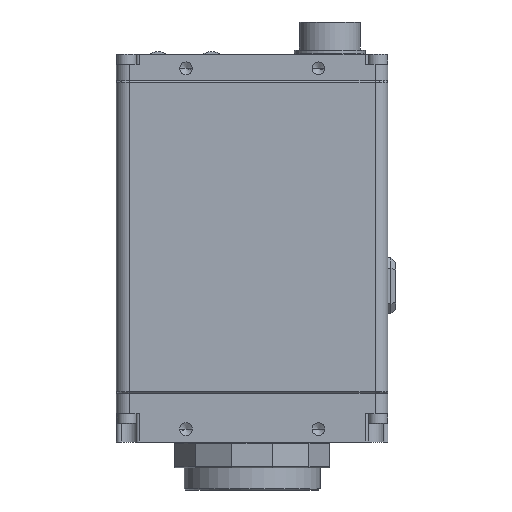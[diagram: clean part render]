
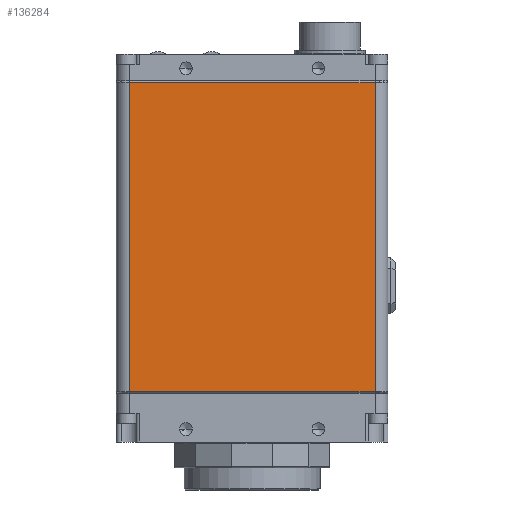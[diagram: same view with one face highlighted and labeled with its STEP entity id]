
A CAD part, front view. The second image highlights one B-rep face of the part: STEP entity #136284.
In plain terms, the highlighted planar face has unit normal (0, -1, 0) as drawn and (0, 1, 0) by its records, which use the part's own axes.
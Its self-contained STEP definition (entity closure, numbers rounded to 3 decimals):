
#3799 = DIRECTION ( 'NONE',  ( 1., 0., 0. ) ) ;
#4184 = DIRECTION ( 'NONE',  ( 0., -1., 0. ) ) ;
#4455 = CARTESIAN_POINT ( 'NONE',  ( -26.67, 16.51, 61.214 ) ) ;
#7368 = PLANE ( 'NONE',  #33106 ) ;
#8238 = CARTESIAN_POINT ( 'NONE',  ( 24.13, 16.51, 0.254 ) ) ;
#10062 = ORIENTED_EDGE ( 'NONE', *, *, #137458, .F. ) ;
#14776 = LINE ( 'NONE', #183584, #134828 ) ;
#27856 = CARTESIAN_POINT ( 'NONE',  ( -24.13, 16.51, 60.96 ) ) ;
#33106 = AXIS2_PLACEMENT_3D ( 'NONE', #4455, #4184, #3799 ) ;
#35497 = LINE ( 'NONE', #81174, #145630 ) ;
#61689 = DIRECTION ( 'NONE',  ( -1., 0., 0. ) ) ;
#61935 = CARTESIAN_POINT ( 'NONE',  ( -26.67, 16.51, 60.96 ) ) ;
#71208 = ORIENTED_EDGE ( 'NONE', *, *, #176427, .F. ) ;
#73296 = VERTEX_POINT ( 'NONE', #8238 ) ;
#73534 = EDGE_CURVE ( 'NONE', #73296, #93504, #14776, .T. ) ;
#81174 = CARTESIAN_POINT ( 'NONE',  ( -24.13, 16.51, 61.214 ) ) ;
#83998 = DIRECTION ( 'NONE',  ( 0., 0., -1. ) ) ;
#93504 = VERTEX_POINT ( 'NONE', #96551 ) ;
#96161 = LINE ( 'NONE', #106524, #169823 ) ;
#96551 = CARTESIAN_POINT ( 'NONE',  ( 24.13, 16.51, 60.96 ) ) ;
#98508 = EDGE_LOOP ( 'NONE', ( #71208, #189642, #10062, #102774 ) ) ;
#98649 = VERTEX_POINT ( 'NONE', #27856 ) ;
#102572 = DIRECTION ( 'NONE',  ( 1., 0., 0. ) ) ;
#102774 = ORIENTED_EDGE ( 'NONE', *, *, #73534, .F. ) ;
#106524 = CARTESIAN_POINT ( 'NONE',  ( -26.67, 16.51, 0.254 ) ) ;
#116225 = FACE_OUTER_BOUND ( 'NONE', #98508, .T. ) ;
#124518 = CARTESIAN_POINT ( 'NONE',  ( -24.13, 16.51, 0.254 ) ) ;
#134828 = VECTOR ( 'NONE', #184552, 1000. ) ;
#136284 = ADVANCED_FACE ( 'NONE', ( #116225 ), #7368, .F. ) ;
#137458 = EDGE_CURVE ( 'NONE', #93504, #98649, #185108, .T. ) ;
#145630 = VECTOR ( 'NONE', #83998, 1000. ) ;
#169823 = VECTOR ( 'NONE', #102572, 1000. ) ;
#176427 = EDGE_CURVE ( 'NONE', #183175, #73296, #96161, .T. ) ;
#180846 = VECTOR ( 'NONE', #61689, 1000. ) ;
#182192 = EDGE_CURVE ( 'NONE', #98649, #183175, #35497, .T. ) ;
#183175 = VERTEX_POINT ( 'NONE', #124518 ) ;
#183584 = CARTESIAN_POINT ( 'NONE',  ( 24.13, 16.51, 61.214 ) ) ;
#184552 = DIRECTION ( 'NONE',  ( 0., 0., 1. ) ) ;
#185108 = LINE ( 'NONE', #61935, #180846 ) ;
#189642 = ORIENTED_EDGE ( 'NONE', *, *, #182192, .F. ) ;
